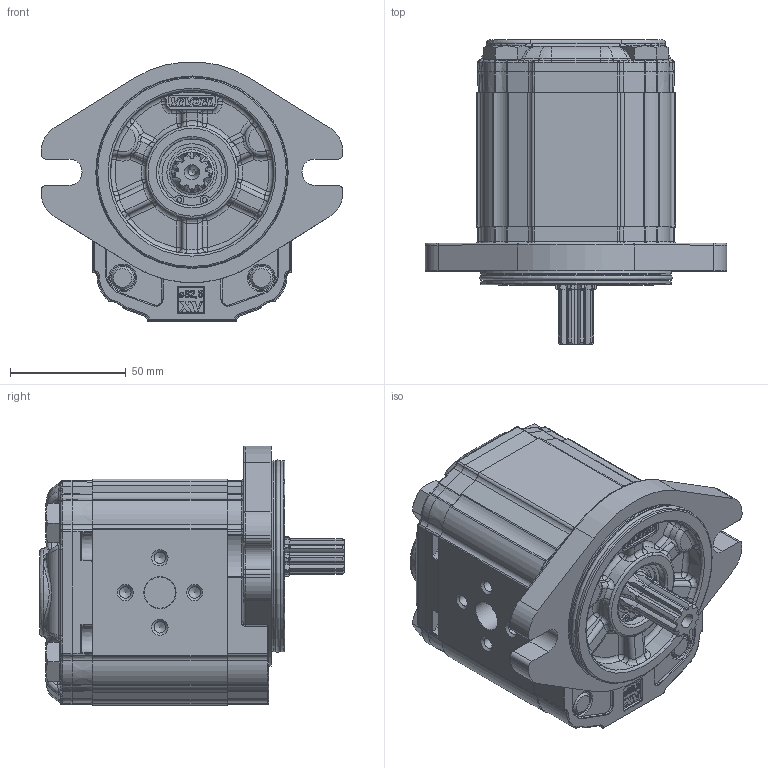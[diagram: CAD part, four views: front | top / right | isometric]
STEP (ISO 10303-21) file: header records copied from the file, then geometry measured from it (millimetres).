
FILE_DESCRIPTION(/* description */ ('Unknown'),/* implementation_level */ '2;1');
FILE_NAME(/* name */ 'X2R4731IOOF',/* time_stamp */ '2021-04-26T12:44:14+02:00',/* author */ ('Unknown'),/* organization */ ('Unknown'),/* preprocessor_version */ 'ST-DEVELOPER v16.7',/* originating_system */ 'Solid Edge',/* authorisation */ 'Unknown');
FILE_SCHEMA (('AP203_CONFIGURATION_CONTROLLED_3D_DESIGN_OF_MECHANICAL_PARTS_AND_ASSEMBLIES_MIM_LF { 1 0 10303 203 3 1 4 }','TECHNICAL_DATA_PACKAGING','AUTOMOTIVE_DESIGN {1 0 10303 214 3 1 1}'));
Products named in the file (5): X2R4731IOOF; X2R31; 2I; X2OOH58; XR219-F
Assembly tree (4 placements, depth 2):
  X2R4731IOOF
    X2R31
    2I
    X2OOH58
    XR219-F
Bounding box: 130.38 x 131.7 x 112.3 mm (x, y, z)
Volume: 739625.8 mm3; surface area: 115381.9 mm2
Topology: 4 solids, 5 shells, 2134 faces, 5264 edges, 3209 vertices
Faces by surface type: cylinder 636, plane 574, bspline 513, torus 257, cone 116, sphere 38
Full cylindrical faces by diameter (mm): 2 x2, 4.917 x4, 5 x4, 10 x4, 10.5 x4, 11 x2, 11.5 x4, 13.5 x2, 16 x4, 17.42 x1, 17.48 x2, 18.724 x1, 20.595 x1, 21.741 x1, 25.834 x1, 28.56 x1, 28.57 x1, 28.8 x1, 30.4 x1, 79.6 x2, 82.5 x2
Entity records: 88274 total; most frequent: CARTESIAN_POINT 28287, ORIENTED_EDGE 10122, DIRECTION 8540, EDGE_CURVE 5061, AXIS2_PLACEMENT_3D 3258, VERTEX_POINT 3145, FACE_BOUND 2352, EDGE_LOOP 2342
